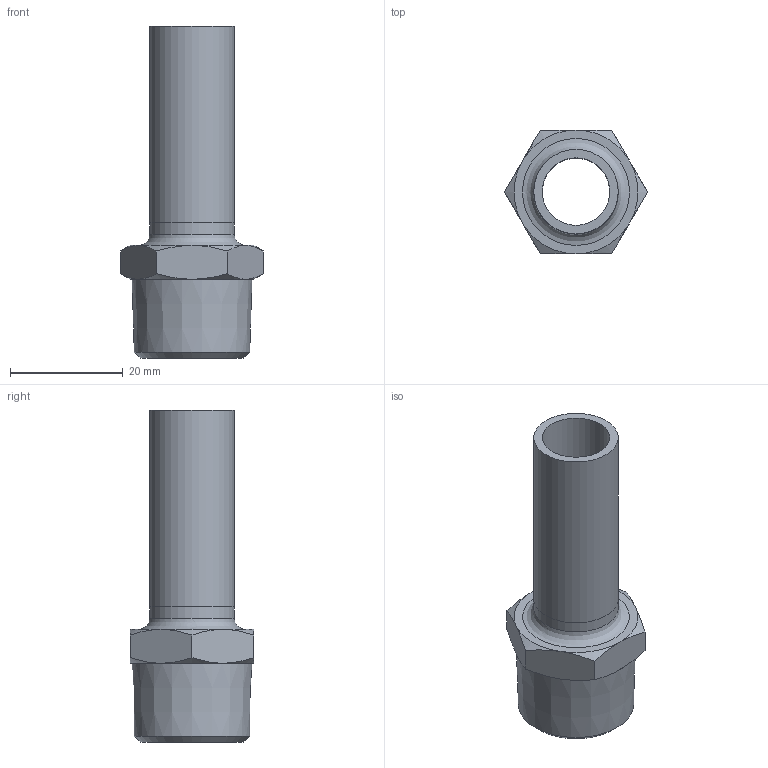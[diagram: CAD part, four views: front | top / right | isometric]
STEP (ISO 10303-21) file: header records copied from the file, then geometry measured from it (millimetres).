
FILE_DESCRIPTION((''),'2;1');
FILE_NAME('G:\Nirosan-Schmiedefeld\Technics\CAD\001 Serie 9.000\015\69280G1512H(0).stp','2017-06-19T15:28:30',('herberg'),(''),'Autodesk Inventor 2009','Autodesk Inventor 2009','');
FILE_SCHEMA(('AUTOMOTIVE_DESIGN { 1 0 10303 214 1 1 1 1 }'));
Length unit declared in the file: millimetre
Products named in the file (3): 69280G1512(0); 69FXE15P(0); AG1512(1)
Assembly tree (2 placements, depth 2):
  69280G1512(0)
    69FXE15P(0)
    AG1512(1)
Bounding box: 25.4 x 22 x 59 mm (x, y, z)
Volume: 6517.4 mm3; surface area: 6144.2 mm2
Topology: 2 solids, 2 shells, 33 faces, 67 edges, 40 vertices
Faces by surface type: cone 14, plane 12, bspline 4, cylinder 3
Full cylindrical faces by diameter (mm): 12 x1, 15 x2
Entity records: 939 total; most frequent: CARTESIAN_POINT 275, DIRECTION 126, ORIENTED_EDGE 112, AXIS2_PLACEMENT_3D 60, EDGE_CURVE 56, EDGE_LOOP 48, VERTEX_POINT 38, FACE_OUTER_BOUND 33
